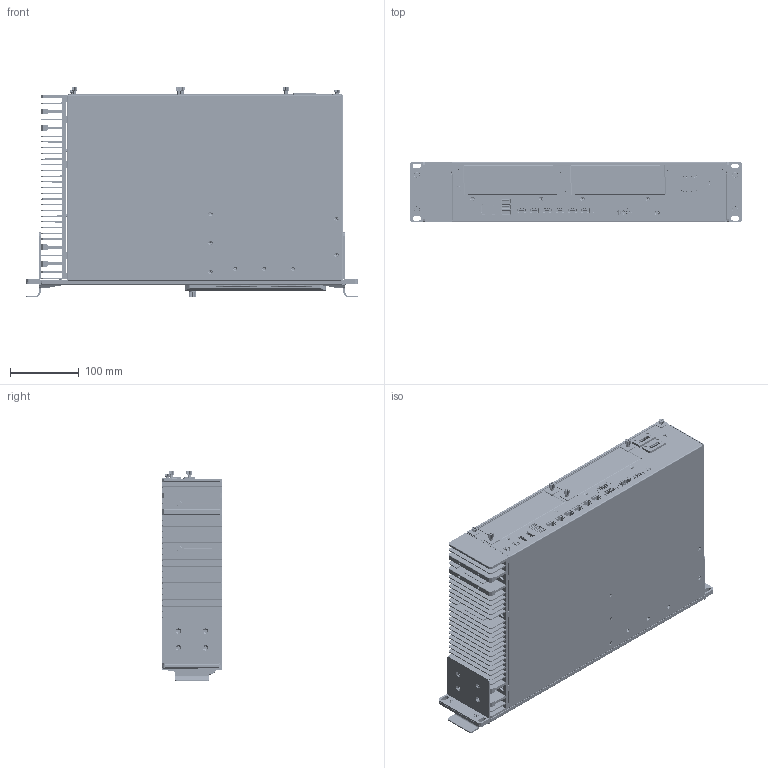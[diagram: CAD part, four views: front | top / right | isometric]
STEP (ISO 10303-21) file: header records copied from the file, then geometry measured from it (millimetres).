
FILE_DESCRIPTION((''),'2;1');
FILE_NAME('3D-DA-682C_SERIES','2019-08-26T16:21:15',('VicWM_Chen'),('PTC'),'CREO PARAMETRIC BY PTC INC, 2018020','CREO PARAMETRIC BY PTC INC, 2018020','');
FILE_SCHEMA(('AUTOMOTIVE_DESIGN { 1 0 10303 214 1 1 1 1 }'));
Products named in the file (1): 3D-DA-682C_SERIES
Bounding box: 482.6 x 88 x 306.61 mm (x, y, z)
Topology: 80 solids, 505 shells, 28095 faces, 76833 edges, 49088 vertices
Faces by surface type: plane 18970, cylinder 6047, cone 1854, bspline 773, torus 267, sphere 162, extrusion 16, revolution 6
Full cylindrical faces by diameter (mm): 0.65 x32, 0.75 x40, 2.98 x18, 4 x2
Entity records: 1159375 total; most frequent: CARTESIAN_POINT 229840, ORIENTED_EDGE 149557, DIRECTION 135625, EDGE_CURVE 76619, PRESENTATION_STYLE_ASSIGNMENT 62935, STYLED_ITEM 62935, VECTOR 54273, LINE 54257
